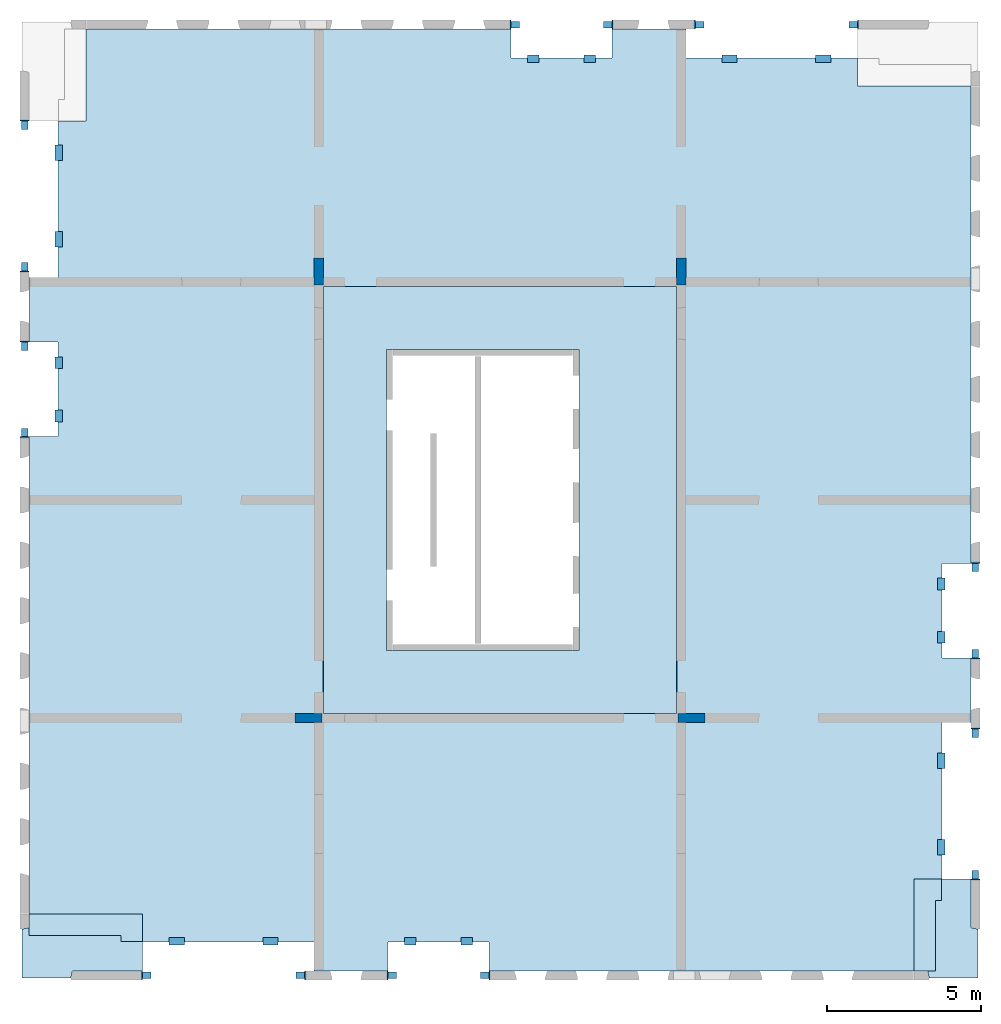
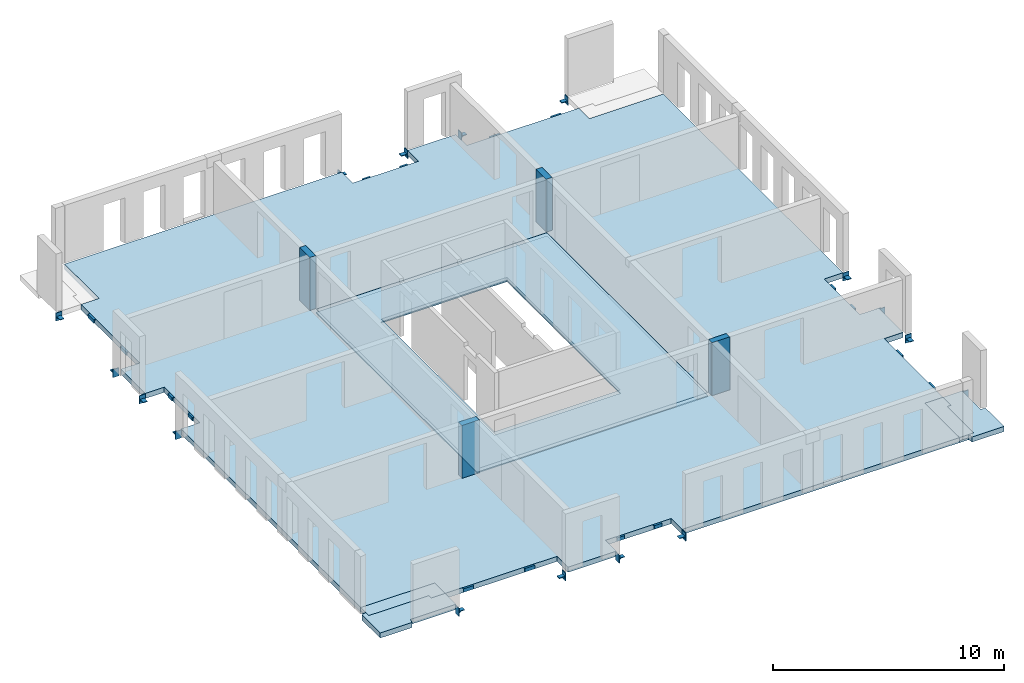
# One storey, part 1 of 4: 32 beams, 7 slabs, 4 columns, 3 openings.
"""IFC2X3 building model written with IfcOpenShell, lengths in millimetres."""

from ifc_helpers import new_model, entity, si_unit, converted_unit, derived_unit, direction, frame, frame_2d, origin, origin_2d_with_axis, place, context, subcontext, project, spatial, polyline, rectangle, outline, extrude, source, transform, mapped, material, layer, layer_set, layer_usage, type_object, type_shapes, element, save


model = new_model("IFC2X3")

# Units and contexts
model_context = context("Model", 3, precision=0.01, world=origin(), true_north=direction((6.12303176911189e-17, 1.0)))
body_context = subcontext(model_context, "Body", "Model", "MODEL_VIEW")
ifc_project = project(units=[si_unit("LENGTHUNIT", "METRE", prefix="MILLI"), si_unit("AREAUNIT", "SQUARE_METRE"), si_unit("VOLUMEUNIT", "CUBIC_METRE"), converted_unit("PLANEANGLEUNIT", "DEGREE", entity("IfcRatioMeasure", 0.0174532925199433), si_unit("PLANEANGLEUNIT", "RADIAN"), dimensions=[0, 0, 0, 0, 0, 0, 0]), si_unit("MASSUNIT", "GRAM", prefix="KILO"), derived_unit("MASSDENSITYUNIT", [(si_unit("MASSUNIT", "GRAM", prefix="KILO"), 1), (si_unit("LENGTHUNIT", "METRE"), -3)]), si_unit("TIMEUNIT", "SECOND"), si_unit("FREQUENCYUNIT", "HERTZ"), si_unit("THERMODYNAMICTEMPERATUREUNIT", "DEGREE_CELSIUS"), derived_unit("THERMALTRANSMITTANCEUNIT", [(si_unit("MASSUNIT", "GRAM", prefix="KILO"), 1), (si_unit("THERMODYNAMICTEMPERATUREUNIT", "KELVIN"), -1), (si_unit("TIMEUNIT", "SECOND"), -3)]), derived_unit("VOLUMETRICFLOWRATEUNIT", [(si_unit("LENGTHUNIT", "METRE"), 3), (si_unit("TIMEUNIT", "SECOND"), -1)]), si_unit("ELECTRICCURRENTUNIT", "AMPERE"), si_unit("ELECTRICVOLTAGEUNIT", "VOLT"), si_unit("POWERUNIT", "WATT"), si_unit("FORCEUNIT", "NEWTON", prefix="KILO"), si_unit("ILLUMINANCEUNIT", "LUX"), si_unit("LUMINOUSFLUXUNIT", "LUMEN"), si_unit("LUMINOUSINTENSITYUNIT", "CANDELA"), derived_unit("USERDEFINED", [(si_unit("MASSUNIT", "GRAM", prefix="KILO"), -1), (si_unit("LENGTHUNIT", "METRE"), -2), (si_unit("TIMEUNIT", "SECOND"), 3), (si_unit("LUMINOUSFLUXUNIT", "LUMEN"), 1)]), derived_unit("LINEARVELOCITYUNIT", [(si_unit("LENGTHUNIT", "METRE"), 1), (si_unit("TIMEUNIT", "SECOND"), -1)]), si_unit("PRESSUREUNIT", "PASCAL"), derived_unit("USERDEFINED", [(si_unit("LENGTHUNIT", "METRE"), -2), (si_unit("MASSUNIT", "GRAM", prefix="KILO"), 1), (si_unit("TIMEUNIT", "SECOND"), -2)])], contexts=[model_context])

# Site, building, storey
site_placement = place(None, origin())
site = spatial("IfcSite", under=ifc_project, at=site_placement, Name="Default", CompositionType="ELEMENT")
building_placement = place(site_placement, origin())
building = spatial("IfcBuilding", under=site, at=building_placement, Name="niet gebruiken", CompositionType="ELEMENT")
storey_placement = place(building_placement, frame((0.0, 0.0, 146520.0)))
storey = spatial("IfcBuildingStorey", under=building, at=storey_placement, Name="47 zevenenveertigste verdieping", CompositionType="ELEMENT", Elevation=146520.0)

# Columns
ifc_material_1 = material(Name="NLRS_f2_beton ihwg")
column_type_1 = type_object("IfcColumnType", Name="300x880", PredefinedType="COLUMN", material=ifc_material_1)
shared_shape_1 = source(origin(), body_context, "Body", "SweptSolid", [
    extrude(rectangle(XDim=879.999999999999, YDim=300.000000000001, at=origin_2d_with_axis()), frame((135850.0, 24940.0, 146430.0), z_axis=(0.0, 0.0, 1.0), x_axis=(0.0, -1.0, 0.0)), (0.0, 0.0, 1.0), 2789.99999999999),
])
type_shapes(column_type_1, [shared_shape_1])
column_1_placement = place(storey_placement, frame((0.0, 0.0, -146520.0)))
element("IfcColumn", 1, at=column_1_placement, inside=storey, type_object=column_type_1, material=ifc_material_1, Name="NLRS_28.11_SCO_TLB_beton kolom ihwg_gen:300x880", ObjectType="300x880", context=body_context, shape_type="MappedRepresentation", body=[
    mapped(shared_shape_1, transform((0.0, 0.0, 0.0), scale=1.0)),
])
column_type_2 = type_object("IfcColumnType", Name="300x880", PredefinedType="COLUMN", material=ifc_material_1)
shared_shape_2 = source(origin(), body_context, "Body", "SweptSolid", [
    extrude(rectangle(XDim=879.999999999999, YDim=300.000000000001, at=origin_2d_with_axis()), frame((147650.0, 24940.0, 146430.0), z_axis=(0.0, 0.0, 1.0), x_axis=(0.0, -1.0, 0.0)), (0.0, 0.0, 1.0), 2789.99999999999),
])
type_shapes(column_type_2, [shared_shape_2])
column_2_placement = place(storey_placement, frame((0.0, 0.0, -146520.0)))
element("IfcColumn", 2, at=column_2_placement, inside=storey, type_object=column_type_2, material=ifc_material_1, Name="NLRS_28.11_SCO_TLB_beton kolom ihwg_gen:300x880", ObjectType="300x880", context=body_context, shape_type="MappedRepresentation", body=[
    mapped(shared_shape_2, transform((0.0, 0.0, 0.0), scale=1.0)),
])
column_type_3 = type_object("IfcColumnType", Name="300x880", PredefinedType="COLUMN", material=ifc_material_1)
shared_shape_3 = source(origin(), body_context, "Body", "SweptSolid", [
    extrude(rectangle(XDim=300.000000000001, YDim=880.000000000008, at=origin_2d_with_axis()), frame((135510.003540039, 10400.0, 146430.0), z_axis=(0.0, 0.0, 1.0), x_axis=(0.0, -1.0, 0.0)), (0.0, 0.0, 1.0), 2789.99999999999),
])
type_shapes(column_type_3, [shared_shape_3])
column_3_placement = place(storey_placement, frame((0.0, 0.0, -146520.0)))
element("IfcColumn", 3, at=column_3_placement, inside=storey, type_object=column_type_3, material=ifc_material_1, Name="NLRS_28.11_SCO_TLB_beton kolom ihwg_gen:300x880", ObjectType="300x880", context=body_context, shape_type="MappedRepresentation", body=[
    mapped(shared_shape_3, transform((0.0, 0.0, 0.0), scale=1.0)),
])
column_type_4 = type_object("IfcColumnType", Name="300x880", PredefinedType="COLUMN", material=ifc_material_1)
shared_shape_4 = source(origin(), body_context, "Body", "SweptSolid", [
    extrude(rectangle(XDim=300.000000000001, YDim=880.000000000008, at=origin_2d_with_axis()), frame((147990.0, 10400.0, 146430.0), z_axis=(0.0, 0.0, 1.0), x_axis=(0.0, -1.0, 0.0)), (0.0, 0.0, 1.0), 2789.99999999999),
])
type_shapes(column_type_4, [shared_shape_4])
column_4_placement = place(storey_placement, frame((0.0, 0.0, -146520.0)))
element("IfcColumn", 4, at=column_4_placement, inside=storey, type_object=column_type_4, material=ifc_material_1, Name="NLRS_28.11_SCO_TLB_beton kolom ihwg_gen:300x880", ObjectType="300x880", context=body_context, shape_type="MappedRepresentation", body=[
    mapped(shared_shape_4, transform((0.0, 0.0, 0.0), scale=1.0)),
])

# Beams
ifc_material_2 = material(Name="NLRS_h2_staal")
beam_type_1 = type_object("IfcBeamType", Name="NLRS_28.11_SF_WPB_stalen schoen 4_gen", PredefinedType="BEAM", material=ifc_material_2)
shared_shape_5 = source(origin(), body_context, "Body", "SweptSolid", [
    extrude(outline(polyline([(-69.4999999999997, -23.0), (8.49999999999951, -23.0), (30.5, -1.0), (30.5000000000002, 47.0), (-69.4999999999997, -23.0)])), frame((-105.0, -109.499999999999, -58.0), z_axis=(1.0, 0.0, 0.0), x_axis=(0.0, -1.0, 0.0)), (0.0, 0.0, 1.0), 35.0),
    extrude(outline(polyline([(-69.4999999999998, -23.0), (8.49999999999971, -23.0), (30.5, -1.0), (30.5000000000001, 47.0), (-69.4999999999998, -23.0)])), frame((70.0, -109.499999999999, -58.0), z_axis=(1.0, 0.0, 0.0), x_axis=(0.0, -1.0, 0.0)), (0.0, 0.0, 1.0), 35.0),
    extrude(rectangle(XDim=300.0, YDim=34.9999999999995, at=origin_2d_with_axis()), frame((0.0, -157.5, -230.0), z_axis=(0.0, 0.0, 1.0), x_axis=(-1.0, 0.0, 0.0)), (0.0, 0.0, 1.0), 420.0),
    extrude(rectangle(XDim=210.000000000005, YDim=274.999999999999, at=origin_2d_with_axis()), frame((0.0, -2.4999999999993, -35.0), z_axis=(0.0, 0.0, 1.0), x_axis=(-1.0, 0.0, 0.0)), (0.0, 0.0, 1.0), 35.0),
])
type_shapes(beam_type_1, [shared_shape_5])
beam_1_placement = place(storey_placement, frame((157230.0, 12500.0, -310.0)))
element("IfcBeam", 5, at=beam_1_placement, inside=storey, type_object=beam_type_1, material=ifc_material_2, Name="NLRS_28.11_SF_WPB_stalen schoen 4_gen:NLRS_28.11_SF_WPB_stalen schoen 4_gen", ObjectType="NLRS_28.11_SF_WPB_stalen schoen 4_gen", context=body_context, shape_type="MappedRepresentation", body=[
    mapped(shared_shape_5, transform((0.0, 0.0, 0.0), scale=1.0)),
])
for number, where, z_axis, x_axis, name in (
    (6, (157230.0, 15300.0, -310.0), (0.0, 0.0, 1.0), (-1.0, 0.0, 0.0), "NLRS_28.11_SF_WPB_stalen schoen 4_gen:NLRS_28.11_SF_WPB_stalen schoen 4_gen"),
    (7, (126270.0, 22500.0, -310.0), (0.0, 0.0, 1.0), (-1.0, 0.0, 0.0), "NLRS_28.11_SF_WPB_stalen schoen 4_gen:NLRS_28.11_SF_WPB_stalen schoen 4_gen"),
):
    element("IfcBeam", number, at=place(storey_placement, frame(where, z_axis=z_axis, x_axis=x_axis)), inside=storey, type_object=beam_type_1, material=ifc_material_2, Name=name, ObjectType="NLRS_28.11_SF_WPB_stalen schoen 4_gen", context=body_context, shape_type="MappedRepresentation", body=[
        mapped(shared_shape_5, transform((0.0, 0.0, 0.0), scale=1.0)),
    ])
beam_2_placement = place(storey_placement, frame((126270.0, 19700.0, -310.0)))
element("IfcBeam", 8, at=beam_2_placement, inside=storey, type_object=beam_type_1, material=ifc_material_2, Name="NLRS_28.11_SF_WPB_stalen schoen 4_gen:NLRS_28.11_SF_WPB_stalen schoen 4_gen", ObjectType="NLRS_28.11_SF_WPB_stalen schoen 4_gen", context=body_context, shape_type="MappedRepresentation", body=[
    mapped(shared_shape_5, transform((0.0, 0.0, 0.0), scale=1.0)),
])
for number, where, z_axis, x_axis, name in (
    (9, (138250.0, 2020.0, -310.0), (0.0, 0.0, 1.0), (0.0, -1.0, 0.0), "NLRS_28.11_SF_WPB_stalen schoen 4_gen:NLRS_28.11_SF_WPB_stalen schoen 4_gen"),
    (10, (141250.0, 2020.0, -310.0), (0.0, 0.0, 1.0), (0.0, 1.0, 0.0), "NLRS_28.11_SF_WPB_stalen schoen 4_gen:NLRS_28.11_SF_WPB_stalen schoen 4_gen"),
    (11, (145250.0, 32980.0, -310.0), (0.0, 0.0, 1.0), (0.0, 1.0, 0.0), "NLRS_28.11_SF_WPB_stalen schoen 4_gen:NLRS_28.11_SF_WPB_stalen schoen 4_gen"),
    (12, (142250.0, 32980.0, -310.0), (0.0, 0.0, 1.0), (0.0, -1.0, 0.0), "NLRS_28.11_SF_WPB_stalen schoen 4_gen:NLRS_28.11_SF_WPB_stalen schoen 4_gen"),
):
    element("IfcBeam", number, at=place(storey_placement, frame(where, z_axis=z_axis, x_axis=x_axis)), inside=storey, type_object=beam_type_1, material=ifc_material_2, Name=name, ObjectType="NLRS_28.11_SF_WPB_stalen schoen 4_gen", context=body_context, shape_type="MappedRepresentation", body=[
        mapped(shared_shape_5, transform((0.0, 0.0, 0.0), scale=1.0)),
    ])
beam_type_2 = type_object("IfcBeamType", Name="NLRS_28.11_SF_WPB_stalen schoen 3_gen", PredefinedType="BEAM", material=ifc_material_2)
shared_shape_6 = source(origin(), body_context, "Body", "SweptSolid", [
    extrude(outline(polyline([(-69.4999999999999, -23.0), (8.49999999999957, -23.0), (30.5000000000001, -1.0), (30.5000000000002, 47.0), (-69.4999999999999, -23.0)])), frame((-105.0, -109.499999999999, -63.0), z_axis=(1.0, 0.0, 0.0), x_axis=(0.0, -1.0, 0.0)), (0.0, 0.0, 1.0), 40.0),
    extrude(outline(polyline([(-69.4999999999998, -23.0), (8.49999999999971, -23.0), (30.5, -1.0), (30.5000000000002, 47.0), (-69.4999999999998, -23.0)])), frame((65.0, -109.499999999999, -63.0), z_axis=(1.0, 0.0, 0.0), x_axis=(0.0, -1.0, 0.0)), (0.0, 0.0, 1.0), 40.0),
    extrude(rectangle(XDim=300.0, YDim=39.9999999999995, at=origin_2d_with_axis()), frame((0.0, -160.0, -230.0), z_axis=(0.0, 0.0, 1.0), x_axis=(-1.0, 0.0, 0.0)), (0.0, 0.0, 1.0), 420.0),
    extrude(rectangle(XDim=210.000000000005, YDim=274.999999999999, at=origin_2d_with_axis()), frame((0.0, -2.49999999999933, -40.0), z_axis=(0.0, 0.0, 1.0), x_axis=(-1.0, 0.0, 0.0)), (0.0, 0.0, 1.0), 39.9999999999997),
])
type_shapes(beam_type_2, [shared_shape_6])
beam_3_placement = place(storey_placement, frame((157230.0, 9900.0, -310.0), z_axis=(0.0, 0.0, 1.0), x_axis=(-1.0, 0.0, 0.0)))
element("IfcBeam", 13, at=beam_3_placement, inside=storey, type_object=beam_type_2, material=ifc_material_2, Name="NLRS_28.11_SF_WPB_stalen schoen 3_gen:NLRS_28.11_SF_WPB_stalen schoen 3_gen", ObjectType="NLRS_28.11_SF_WPB_stalen schoen 3_gen", context=body_context, shape_type="MappedRepresentation", body=[
    mapped(shared_shape_6, transform((0.0, 0.0, 0.0), scale=1.0)),
])
for number, where, name in (
    (14, (157230.0, 5300.0, -310.0), "NLRS_28.11_SF_WPB_stalen schoen 3_gen:NLRS_28.11_SF_WPB_stalen schoen 3_gen"),
    (15, (126270.0, 25100.0, -310.0), "NLRS_28.11_SF_WPB_stalen schoen 3_gen:NLRS_28.11_SF_WPB_stalen schoen 3_gen"),
):
    element("IfcBeam", number, at=place(storey_placement, frame(where)), inside=storey, type_object=beam_type_2, material=ifc_material_2, Name=name, ObjectType="NLRS_28.11_SF_WPB_stalen schoen 3_gen", context=body_context, shape_type="MappedRepresentation", body=[
        mapped(shared_shape_6, transform((0.0, 0.0, 0.0), scale=1.0)),
    ])
for number, where, z_axis, x_axis, name in (
    (16, (126270.0, 29700.0, -310.0), (0.0, 0.0, 1.0), (-1.0, 0.0, 0.0), "NLRS_28.11_SF_WPB_stalen schoen 3_gen:NLRS_28.11_SF_WPB_stalen schoen 3_gen"),
    (17, (135250.0, 2020.0, -310.0), (0.0, 0.0, 1.0), (0.0, 1.0, 0.0), "NLRS_28.11_SF_WPB_stalen schoen 3_gen:NLRS_28.11_SF_WPB_stalen schoen 3_gen"),
    (18, (130250.0, 2020.0, -310.0), (0.0, 0.0, 1.0), (0.0, -1.0, 0.0), "NLRS_28.11_SF_WPB_stalen schoen 3_gen:NLRS_28.11_SF_WPB_stalen schoen 3_gen"),
    (19, (148250.0, 32980.0, -310.0), (0.0, 0.0, 1.0), (0.0, -1.0, 0.0), "NLRS_28.11_SF_WPB_stalen schoen 3_gen:NLRS_28.11_SF_WPB_stalen schoen 3_gen"),
    (20, (153250.0, 32980.0, -310.0), (0.0, 0.0, 1.0), (0.0, 1.0, 0.0), "NLRS_28.11_SF_WPB_stalen schoen 3_gen:NLRS_28.11_SF_WPB_stalen schoen 3_gen"),
):
    element("IfcBeam", number, at=place(storey_placement, frame(where, z_axis=z_axis, x_axis=x_axis)), inside=storey, type_object=beam_type_2, material=ifc_material_2, Name=name, ObjectType="NLRS_28.11_SF_WPB_stalen schoen 3_gen", context=body_context, shape_type="MappedRepresentation", body=[
        mapped(shared_shape_6, transform((0.0, 0.0, 0.0), scale=1.0)),
    ])
beam_type_3 = type_object("IfcBeamType", Name="NLRS_28.11_SF_WPB_stalen handje 7 lang 375_gen:NLRS_28.11_SF_WPB_stalen handje 7_gen", PredefinedType="BEAM")
beam_4_placement = place(storey_placement, frame((156235.125015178, 9255.24886461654, -93.0), z_axis=(0.0, 0.0, 1.0), x_axis=(0.0, -1.0, 0.0)))
element("IfcBeam", 21, at=beam_4_placement, inside=storey, type_object=beam_type_3, material=ifc_material_2, Name="NLRS_28.11_SF_WPB_stalen handje 7 lang 375_gen:NLRS_28.11_SF_WPB_stalen handje 7_gen", ObjectType="NLRS_28.11_SF_WPB_stalen handje 7 lang 375_gen:NLRS_28.11_SF_WPB_stalen handje 7_gen", context=body_context, shape_type="SweptSolid", body=[
    extrude(outline(polyline([(-70.6666666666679, -153.333333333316), (-40.6666666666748, -153.333333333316), (-40.6666666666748, 61.66666666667), (111.333333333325, 61.66666666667), (111.333333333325, 91.6666666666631), (-70.6666666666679, 91.6666666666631), (-70.6666666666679, -153.333333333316)])), frame((0.0, -91.6666666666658, -70.6666666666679), z_axis=(1.0, 0.0, 0.0), x_axis=(0.0, 0.0, -1.0)), (0.0, 0.0, 1.0), 500.000000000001),
])
beam_5_placement = place(storey_placement, frame((156235.125015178, 6445.2458243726, -93.0), z_axis=(0.0, 0.0, 1.0), x_axis=(0.0, -1.0, 0.0)))
element("IfcBeam", 22, at=beam_5_placement, inside=storey, type_object=beam_type_3, material=ifc_material_2, Name="NLRS_28.11_SF_WPB_stalen handje 7 lang 375_gen:NLRS_28.11_SF_WPB_stalen handje 7_gen", ObjectType="NLRS_28.11_SF_WPB_stalen handje 7 lang 375_gen:NLRS_28.11_SF_WPB_stalen handje 7_gen", context=body_context, shape_type="SweptSolid", body=[
    extrude(outline(polyline([(-70.6666666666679, -153.333333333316), (-40.6666666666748, -153.333333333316), (-40.6666666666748, 61.66666666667), (111.333333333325, 61.66666666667), (111.333333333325, 91.6666666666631), (-70.6666666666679, 91.6666666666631), (-70.6666666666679, -153.333333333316)])), frame((0.0, -91.6666666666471, -70.6666666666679), z_axis=(1.0, 0.0, 0.0), x_axis=(0.0, 0.0, -1.0)), (0.0, 0.0, 1.0), 500.000000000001),
])
beam_6_placement = place(storey_placement, frame((127264.874984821, 25744.7511353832, -93.0), z_axis=(0.0, 0.0, 1.0), x_axis=(0.0, 1.0, 0.0)))
element("IfcBeam", 23, at=beam_6_placement, inside=storey, type_object=beam_type_3, material=ifc_material_2, Name="NLRS_28.11_SF_WPB_stalen handje 7 lang 375_gen:NLRS_28.11_SF_WPB_stalen handje 7_gen", ObjectType="NLRS_28.11_SF_WPB_stalen handje 7 lang 375_gen:NLRS_28.11_SF_WPB_stalen handje 7_gen", context=body_context, shape_type="SweptSolid", body=[
    extrude(outline(polyline([(-70.6666666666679, -153.333333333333), (-40.6666666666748, -153.333333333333), (-40.6666666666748, 61.66666666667), (111.333333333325, 61.6666666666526), (111.333333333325, 91.6666666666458), (-70.6666666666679, 91.6666666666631), (-70.6666666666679, -153.333333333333)])), frame((0.0, -91.6666666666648, -70.6666666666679), z_axis=(1.0, 0.0, 0.0), x_axis=(0.0, 0.0, -1.0)), (0.0, 0.0, 1.0), 500.000000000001),
])
beam_7_placement = place(storey_placement, frame((127264.874984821, 28554.7541756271, -93.0), z_axis=(0.0, 0.0, 1.0), x_axis=(0.0, 1.0, 0.0)))
element("IfcBeam", 24, at=beam_7_placement, inside=storey, type_object=beam_type_3, material=ifc_material_2, Name="NLRS_28.11_SF_WPB_stalen handje 7 lang 375_gen:NLRS_28.11_SF_WPB_stalen handje 7_gen", ObjectType="NLRS_28.11_SF_WPB_stalen handje 7 lang 375_gen:NLRS_28.11_SF_WPB_stalen handje 7_gen", context=body_context, shape_type="SweptSolid", body=[
    extrude(outline(polyline([(-70.6666666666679, -153.333333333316), (-40.6666666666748, -153.333333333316), (-40.6666666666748, 61.6666666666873), (111.333333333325, 61.66666666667), (111.333333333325, 91.6666666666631), (-70.6666666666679, 91.6666666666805), (-70.6666666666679, -153.333333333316)])), frame((0.0, -91.66666666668, -70.6666666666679), z_axis=(1.0, 0.0, 0.0), x_axis=(0.0, 0.0, -1.0)), (0.0, 0.0, 1.0), 500.000000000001),
])
for number, where, z_axis, x_axis, name in (
    (25, (140862.631597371, 3015.23611279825, -93.0), (0.0, 0.0, 1.0), (-1.0, 0.0, 0.0), "NLRS_28.11_SF_WPB_stalen handje 7 lang 375_gen:NLRS_28.11_SF_WPB_stalen handje 7_gen"),
    (26, (139012.628555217, 3015.2361127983, -93.0), (0.0, 0.0, 1.0), (-1.0, 0.0, 0.0), "NLRS_28.11_SF_WPB_stalen handje 7 lang 375_gen:NLRS_28.11_SF_WPB_stalen handje 7_gen"),
):
    element("IfcBeam", number, at=place(storey_placement, frame(where, z_axis=z_axis, x_axis=x_axis)), inside=storey, type_object=beam_type_3, material=ifc_material_2, Name=name, ObjectType="NLRS_28.11_SF_WPB_stalen handje 7 lang 375_gen:NLRS_28.11_SF_WPB_stalen handje 7_gen", context=body_context, shape_type="SweptSolid", body=[
        extrude(outline(polyline([(-70.6666666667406, -153.333333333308), (-40.6666666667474, -153.333333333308), (-40.6666666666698, 61.6666666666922), (111.33333333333, 61.6666666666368), (111.333333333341, 91.6666666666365), (-70.6666666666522, 91.6666666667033), (-70.6666666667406, -153.333333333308)])), frame((0.0, -91.6666666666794, -70.6666666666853), z_axis=(1.0, 0.0, 0.0), x_axis=(0.0, 0.0, -1.0)), (0.0, 0.0, 1.0), 375.000000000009),
    ])
for number, where, z_axis, x_axis, name in (
    (27, (134525.131597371, 3015.23611279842, -93.0), (0.0, 0.0, 1.0), (-1.0, 0.0, 0.0), "NLRS_28.11_SF_WPB_stalen handje 7 lang 375_gen:NLRS_28.11_SF_WPB_stalen handje 7_gen"),
    (28, (131475.128555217, 3015.23611279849, -93.0), (0.0, 0.0, 1.0), (-1.0, 0.0, 0.0), "NLRS_28.11_SF_WPB_stalen handje 7 lang 375_gen:NLRS_28.11_SF_WPB_stalen handje 7_gen"),
):
    element("IfcBeam", number, at=place(storey_placement, frame(where, z_axis=z_axis, x_axis=x_axis)), inside=storey, type_object=beam_type_3, material=ifc_material_2, Name=name, ObjectType="NLRS_28.11_SF_WPB_stalen handje 7 lang 375_gen:NLRS_28.11_SF_WPB_stalen handje 7_gen", context=body_context, shape_type="SweptSolid", body=[
        extrude(outline(polyline([(-70.66666666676, -153.333333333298), (-40.6666666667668, -153.333333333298), (-40.666666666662, 61.6666666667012), (111.333333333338, 61.6666666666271), (111.333333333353, 91.6666666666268), (-70.6666666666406, 91.666666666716), (-70.66666666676, -153.333333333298)])), frame((0.0, -91.6666666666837, -70.6666666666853), z_axis=(1.0, 0.0, 0.0), x_axis=(0.0, 0.0, -1.0)), (0.0, 0.0, 1.0), 500.000000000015),
    ])
for number, where, name in (
    (29, (142637.368402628, 31984.7638872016, -93.0), "NLRS_28.11_SF_WPB_stalen handje 7 lang 375_gen:NLRS_28.11_SF_WPB_stalen handje 7_gen"),
    (30, (144487.371444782, 31984.7638872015, -93.0), "NLRS_28.11_SF_WPB_stalen handje 7 lang 375_gen:NLRS_28.11_SF_WPB_stalen handje 7_gen"),
):
    element("IfcBeam", number, at=place(storey_placement, frame(where)), inside=storey, type_object=beam_type_3, material=ifc_material_2, Name=name, ObjectType="NLRS_28.11_SF_WPB_stalen handje 7 lang 375_gen:NLRS_28.11_SF_WPB_stalen handje 7_gen", context=body_context, shape_type="SweptSolid", body=[
        extrude(outline(polyline([(-70.6666666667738, -153.333333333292), (-40.6666666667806, -153.333333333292), (-40.6666666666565, 61.6666666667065), (111.333333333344, 61.6666666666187), (111.333333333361, 91.6666666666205), (-70.6666666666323, 91.6666666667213), (-70.6666666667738, -153.333333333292)])), frame((0.0, -91.6666666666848, -70.6666666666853), z_axis=(1.0, 0.0, 0.0), x_axis=(0.0, 0.0, -1.0)), (0.0, 0.0, 1.0), 375.000000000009),
    ])
for number, where, name in (
    (31, (148974.868402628, 31984.7638872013, -93.0), "NLRS_28.11_SF_WPB_stalen handje 7 lang 375_gen:NLRS_28.11_SF_WPB_stalen handje 7_gen"),
    (32, (152024.871444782, 31984.7638872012, -93.0), "NLRS_28.11_SF_WPB_stalen handje 7 lang 375_gen:NLRS_28.11_SF_WPB_stalen handje 7_gen"),
):
    element("IfcBeam", number, at=place(storey_placement, frame(where)), inside=storey, type_object=beam_type_3, material=ifc_material_2, Name=name, ObjectType="NLRS_28.11_SF_WPB_stalen handje 7 lang 375_gen:NLRS_28.11_SF_WPB_stalen handje 7_gen", context=body_context, shape_type="SweptSolid", body=[
        extrude(outline(polyline([(-70.6666666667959, -153.333333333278), (-40.6666666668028, -153.333333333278), (-40.6666666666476, 61.6666666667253), (111.333333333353, 61.6666666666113), (111.333333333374, 91.6666666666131), (-70.6666666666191, 91.6666666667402), (-70.6666666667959, -153.333333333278)])), frame((0.0, -91.6666666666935, -70.6666666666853), z_axis=(1.0, 0.0, 0.0), x_axis=(0.0, 0.0, -1.0)), (0.0, 0.0, 1.0), 500.000000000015),
    ])
beam_8_placement = place(storey_placement, frame((156235.0, 14952.5097115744, -93.0), z_axis=(0.0, 0.0, 1.0), x_axis=(0.0, -1.0, 0.0)))
element("IfcBeam", 33, at=beam_8_placement, inside=storey, type_object=beam_type_3, material=ifc_material_2, Name="NLRS_28.11_SF_WPB_stalen handje 7 lang 375_gen:NLRS_28.11_SF_WPB_stalen handje 7_gen", ObjectType="NLRS_28.11_SF_WPB_stalen handje 7 lang 375_gen:NLRS_28.11_SF_WPB_stalen handje 7_gen", context=body_context, shape_type="SweptSolid", body=[
    extrude(outline(polyline([(-70.6666666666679, -153.333333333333), (-40.6666666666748, -153.333333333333), (-40.6666666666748, 61.66666666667), (111.333333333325, 61.66666666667), (111.333333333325, 91.6666666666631), (-70.6666666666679, 91.6666666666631), (-70.6666666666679, -153.333333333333)])), frame((0.0, -91.6666666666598, -70.6666666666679), z_axis=(1.0, 0.0, 0.0), x_axis=(0.0, 0.0, -1.0)), (0.0, 0.0, 1.0), 375.000000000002),
])
beam_9_placement = place(storey_placement, frame((156235.0, 13222.5097115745, -93.0), z_axis=(0.0, 0.0, 1.0), x_axis=(0.0, -1.0, 0.0)))
element("IfcBeam", 34, at=beam_9_placement, inside=storey, type_object=beam_type_3, material=ifc_material_2, Name="NLRS_28.11_SF_WPB_stalen handje 7 lang 375_gen:NLRS_28.11_SF_WPB_stalen handje 7_gen", ObjectType="NLRS_28.11_SF_WPB_stalen handje 7 lang 375_gen:NLRS_28.11_SF_WPB_stalen handje 7_gen", context=body_context, shape_type="SweptSolid", body=[
    extrude(outline(polyline([(-70.6666666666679, -153.333333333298), (-40.6666666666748, -153.333333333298), (-40.6666666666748, 61.6666666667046), (111.333333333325, 61.6666666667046), (111.333333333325, 91.6666666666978), (-70.6666666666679, 91.6666666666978), (-70.6666666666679, -153.333333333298)])), frame((0.0, -91.6666666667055, -70.6666666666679), z_axis=(1.0, 0.0, 0.0), x_axis=(0.0, 0.0, -1.0)), (0.0, 0.0, 1.0), 375.000000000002),
])
beam_10_placement = place(storey_placement, frame((127265.0, 20047.4902884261, -93.0), z_axis=(0.0, 0.0, 1.0), x_axis=(0.0, 1.0, 0.0)))
element("IfcBeam", 35, at=beam_10_placement, inside=storey, type_object=beam_type_3, material=ifc_material_2, Name="NLRS_28.11_SF_WPB_stalen handje 7 lang 375_gen:NLRS_28.11_SF_WPB_stalen handje 7_gen", ObjectType="NLRS_28.11_SF_WPB_stalen handje 7 lang 375_gen:NLRS_28.11_SF_WPB_stalen handje 7_gen", context=body_context, shape_type="SweptSolid", body=[
    extrude(outline(polyline([(-70.6666666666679, -153.333333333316), (-40.6666666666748, -153.333333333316), (-40.6666666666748, 61.6666666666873), (111.333333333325, 61.66666666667), (111.333333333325, 91.6666666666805), (-70.6666666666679, 91.6666666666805), (-70.6666666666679, -153.333333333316)])), frame((0.0, -91.6666666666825, -70.6666666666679), z_axis=(1.0, 0.0, 0.0), x_axis=(0.0, 0.0, -1.0)), (0.0, 0.0, 1.0), 375.000000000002),
])
beam_11_placement = place(storey_placement, frame((127265.0, 21777.4902884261, -93.0), z_axis=(0.0, 0.0, 1.0), x_axis=(0.0, 1.0, 0.0)))
element("IfcBeam", 36, at=beam_11_placement, inside=storey, type_object=beam_type_3, material=ifc_material_2, Name="NLRS_28.11_SF_WPB_stalen handje 7 lang 375_gen:NLRS_28.11_SF_WPB_stalen handje 7_gen", ObjectType="NLRS_28.11_SF_WPB_stalen handje 7 lang 375_gen:NLRS_28.11_SF_WPB_stalen handje 7_gen", context=body_context, shape_type="SweptSolid", body=[
    extrude(outline(polyline([(-70.6666666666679, -153.33333333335), (-40.6666666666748, -153.33333333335), (-40.6666666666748, 61.6666666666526), (111.333333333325, 61.6666666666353), (111.333333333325, 91.6666666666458), (-70.6666666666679, 91.6666666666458), (-70.6666666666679, -153.33333333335)])), frame((0.0, -91.6666666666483, -70.6666666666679), z_axis=(1.0, 0.0, 0.0), x_axis=(0.0, 0.0, -1.0)), (0.0, 0.0, 1.0), 375.000000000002),
])

# Slabs
ifc_material_3 = material(Name="NLRS_f2_beton prefab")
ifc_layer_1 = layer(ifc_material_3, 270.0)
ifc_layer_set_1 = layer_set([ifc_layer_1], Name="Floor:NLRS_23.22_FL_beton prefab d=270 3D element_gen")
ifc_layer_usage_1 = layer_usage(ifc_layer_set_1, "AXIS3", "POSITIVE", 0.0)
slab_1_placement = place(storey_placement, origin())
element("IfcSlab", 37, at=slab_1_placement, inside=storey, material=ifc_layer_usage_1, Name="Floor:NLRS_23.22_FL_beton prefab d=270 3D element_gen", ObjectType="Floor:NLRS_23.22_FL_beton prefab d=270 3D element_gen", PredefinedType="LANDING", context=body_context, shape_type="SweptSolid", body=[
    extrude(outline(polyline([(-1034.47139498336, -1100.52860501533), (1955.52860501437, -1100.52860501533), (1955.52860501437, 749.471394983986), (370.152429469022, 749.471394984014), (322.675940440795, 982.471394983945), (-1267.47139498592, 982.471394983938), (-1267.47139498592, -607.675940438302), (-1034.47139498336, -655.152429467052), (-1034.47139498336, -1100.52860501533)])), frame((156330.528605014, 3204.47139498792, -90.0), z_axis=(0.0, 0.0, -1.0), x_axis=(0.0, 1.0, 0.0)), (0.0, 0.0, 1.0), 270.000000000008),
])
ifc_layer_2 = layer(ifc_material_1, 170.0)
ifc_layer_set_2 = layer_set([ifc_layer_2], Name="Floor:NLRS_23.21_FL_beton ihwg d=170_gen")
ifc_layer_usage_2 = layer_usage(ifc_layer_set_2, "AXIS3", "POSITIVE", 0.0)
slab_2_placement = place(storey_placement, origin())
element("IfcSlab", 38, at=slab_2_placement, inside=storey, material=ifc_layer_usage_2, Name="Floor:NLRS_23.21_FL_beton ihwg d=170_gen", ObjectType="Floor:NLRS_23.21_FL_beton ihwg d=170_gen", PredefinedType="FLOOR", context=body_context, shape_type="SweptSolid", body=[
    extrude(outline(polyline([(-1760.0, -533.33333333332), (1230.0, -533.33333333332), (1230.0, 366.666666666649), (530.0, 366.666666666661), (530.0, 166.666666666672), (-1760.0, 166.666666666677), (-1760.0, -533.33333333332)])), frame((155763.333333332, 3930.0, -90.0), z_axis=(0.0, 0.0, -1.0), x_axis=(0.0, 1.0, 0.0)), (0.0, 0.0, 1.0), 169.999999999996),
])
ifc_layer_usage_3 = layer_usage(ifc_layer_set_1, "AXIS3", "POSITIVE", 0.0)
slab_3_placement = place(storey_placement, origin())
element("IfcSlab", 39, at=slab_3_placement, inside=storey, material=ifc_layer_usage_3, Name="Floor:NLRS_23.22_FL_beton prefab d=270 3D element_gen", ObjectType="Floor:NLRS_23.22_FL_beton prefab d=270 3D element_gen", PredefinedType="LANDING", context=body_context, shape_type="SweptSolid", body=[
    extrude(outline(polyline([(-982.471394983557, -1442.47139498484), (607.67594043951, -1442.47139498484), (655.152429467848, -1209.47139498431), (1100.52860501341, -1209.47139498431), (1100.52860501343, 2480.5286050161), (-749.471394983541, 2480.5286050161), (-749.471394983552, 195.15242946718), (-982.47139498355, 147.675940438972), (-982.471394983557, -1442.47139498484)])), frame((127629.471394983, 2919.47139499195, -90.0), z_axis=(0.0, 0.0, -1.0), x_axis=(0.0, 1.0, 0.0)), (0.0, 0.0, 1.0), 270.000000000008),
])
ifc_layer_usage_4 = layer_usage(ifc_layer_set_2, "AXIS3", "POSITIVE", 0.0)
slab_4_placement = place(storey_placement, origin())
element("IfcSlab", 40, at=slab_4_placement, inside=storey, material=ifc_layer_usage_4, Name="Floor:NLRS_23.21_FL_beton ihwg d=170_gen", ObjectType="Floor:NLRS_23.21_FL_beton ihwg d=170_gen", PredefinedType="FLOOR", context=body_context, shape_type="SweptSolid", body=[
    extrude(outline(polyline([(-166.666666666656, -2226.66666666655), (533.333333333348, -2226.66666666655), (533.333333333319, 1463.33333333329), (-366.666666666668, 1463.33333333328), (-366.666666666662, 763.333333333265), (-166.666666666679, 763.333333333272), (-166.666666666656, -2226.66666666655)])), frame((128646.666666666, 3486.66666667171, -90.0), z_axis=(0.0, 0.0, -1.0), x_axis=(0.0, 1.0, 0.0)), (0.0, 0.0, 1.0), 169.999999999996),
])

# Slab, opening
ifc_layer_3 = layer(ifc_material_1, 230.0)
ifc_layer_set_3 = layer_set([ifc_layer_3], Name="Floor:NLRS_23.21_FL_vloer=230_gen")
ifc_layer_usage_5 = layer_usage(ifc_layer_set_3, "AXIS3", "POSITIVE", 0.0)
slab_5_placement = place(storey_placement, frame((136000.0, 10549.7638872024, -320.0)))
slab_5 = element("IfcSlab", 41, at=slab_5_placement, inside=storey, material=ifc_layer_usage_5, Name="Floor:NLRS_23.21_FL_vloer=230_gen", ObjectType="Floor:NLRS_23.21_FL_vloer=230_gen", PredefinedType="FLOOR", context=body_context, shape_type="SweptSolid", body=[
    extrude(rectangle(XDim=13900.2361127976, YDim=11500.0, at=frame_2d((0.0, 0.0), x_axis=(0.0, -1.0))), frame((5750.0, 6950.11805639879, 230.0), z_axis=(0.0, 0.0, -1.0), x_axis=(-1.0, 0.0, 0.0)), (0.0, 0.0, 1.0), 230.0),
])
opening_1_placement = place(slab_5_placement, frame((5190.0, 6950.23611279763, 230.0)))
element("IfcOpeningElement", 42, at=opening_1_placement, cuts=slab_5, Name="Floor:NLRS_23.21_FL_vloer=230_gen:2", ObjectType="Opening", context=body_context, shape_type="SweptSolid", body=[
    extrude(rectangle(XDim=9800.0, YDim=6279.99999999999, at=origin_2d_with_axis()), frame((0.0, 0.0, 0.0), z_axis=(0.0, 0.0, -1.0), x_axis=(0.0, -1.0, 0.0)), (0.0, 0.0, 1.0), 230.0),
])

ifc_layer_4 = layer(ifc_material_1, 270.0)
ifc_layer_set_4 = layer_set([ifc_layer_4], Name="Floor:NLRS_23.21_FL_vloer d=270_gen")
ifc_layer_usage_6 = layer_usage(ifc_layer_set_4, "AXIS3", "POSITIVE", 0.0)
slab_6_placement = place(storey_placement, frame((126420.0, 2170.0, -360.0)))
slab_6 = element("IfcSlab", 43, at=slab_6_placement, inside=storey, material=ifc_layer_usage_6, Name="Floor:NLRS_23.21_FL_vloer d=270_gen", ObjectType="Floor:NLRS_23.21_FL_vloer d=270_gen", PredefinedType="FLOOR", context=body_context, shape_type="SweptSolid", body=[
    extrude(outline(polyline([(-360.0, 15330.0), (-360.0, 14385.0), (-3640.0, 14385.0), (-3640.0, 15330.0), (-6050.0, 15330.0), (-6050.0, 14385.0), (-11640.0, 14385.0), (-11640.0, 13480.0), (-15330.0, 13480.0), (-15330.0, -2060.0), (-14385.0, -2060.0), (-14385.0, -5140.0), (-15330.0, -5140.0), (-15330.0, -7250.0), (-14385.0, -7250.0), (-14385.0, -12340.0), (-13480.0, -12340.0), (-13480.0, -15330.0), (360.0, -15330.0), (360.0, -14385.0), (3640.0, -14385.0), (3640.0, -15330.0), (6050.0, -15330.0), (6050.0, -14385.0), (11640.0, -14385.0), (11640.0, -13480.0), (15330.0, -13480.0), (15330.0, 2060.0), (14385.0, 2060.0), (14385.0, 5140.0), (15330.0, 5140.0), (15330.0, 7250.0), (14385.0, 7250.0), (14385.0, 12340.0), (13480.0, 12340.0), (13480.0, 15330.0), (-360.0, 15330.0)])), frame((15330.0, 15330.0, 270.0), z_axis=(0.0, 0.0, -1.0), x_axis=(-1.0, 0.0, 0.0)), (0.0, 0.0, 1.0), 270.000000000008),
])
opening_2_placement = place(slab_6_placement, frame((15330.0, 15330.0, 270.0)))
element("IfcOpeningElement", 44, at=opening_2_placement, cuts=slab_6, Name="Floor:NLRS_23.21_FL_vloer d=270_gen:2", ObjectType="Opening", context=body_context, shape_type="SweptSolid", body=[
    extrude(rectangle(XDim=13899.9999999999, YDim=11500.0, at=origin_2d_with_axis()), frame((0.0, 0.0, 0.0), z_axis=(0.0, 0.0, -1.0), x_axis=(0.0, -1.0, 0.0)), (0.0, 0.0, 1.0), 270.000000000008),
])

ifc_layer_5 = layer(ifc_material_3, 60.0)
ifc_layer_set_5 = layer_set([ifc_layer_5], Name="Floor:NLRS_23.21_FL_breedplaat d=60_gen")
ifc_layer_usage_7 = layer_usage(ifc_layer_set_5, "AXIS3", "POSITIVE", 0.0)
slab_7_placement = place(storey_placement, frame((135990.0, 10540.0, -320.0)))
slab_7 = element("IfcSlab", 45, at=slab_7_placement, inside=storey, material=ifc_layer_usage_7, Name="Floor:NLRS_23.21_FL_breedplaat d=60_gen", ObjectType="Floor:NLRS_23.21_FL_breedplaat d=60_gen", PredefinedType="FLOOR", context=body_context, shape_type="SweptSolid", body=[
    extrude(rectangle(XDim=13919.9999999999, YDim=11520.0, at=frame_2d((0.0, 0.0), x_axis=(0.0, -1.0))), frame((5760.0, 6960.0, 60.0), z_axis=(0.0, 0.0, -1.0), x_axis=(-1.0, 0.0, 0.0)), (0.0, 0.0, 1.0), 60.0000000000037),
])
opening_3_placement = place(slab_7_placement, frame((5200.0, 6960.0, 60.0)))
element("IfcOpeningElement", 46, at=opening_3_placement, cuts=slab_7, Name="Floor:NLRS_23.21_FL_breedplaat d=60_gen:2", ObjectType="Opening", context=body_context, shape_type="SweptSolid", body=[
    extrude(rectangle(XDim=9820.0, YDim=6299.99999999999, at=origin_2d_with_axis()), frame((0.0, 0.0, 0.0), z_axis=(0.0, 0.0, -1.0), x_axis=(0.0, -1.0, 0.0)), (0.0, 0.0, 1.0), 60.0000000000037),
])

save(model, "model.ifc")
